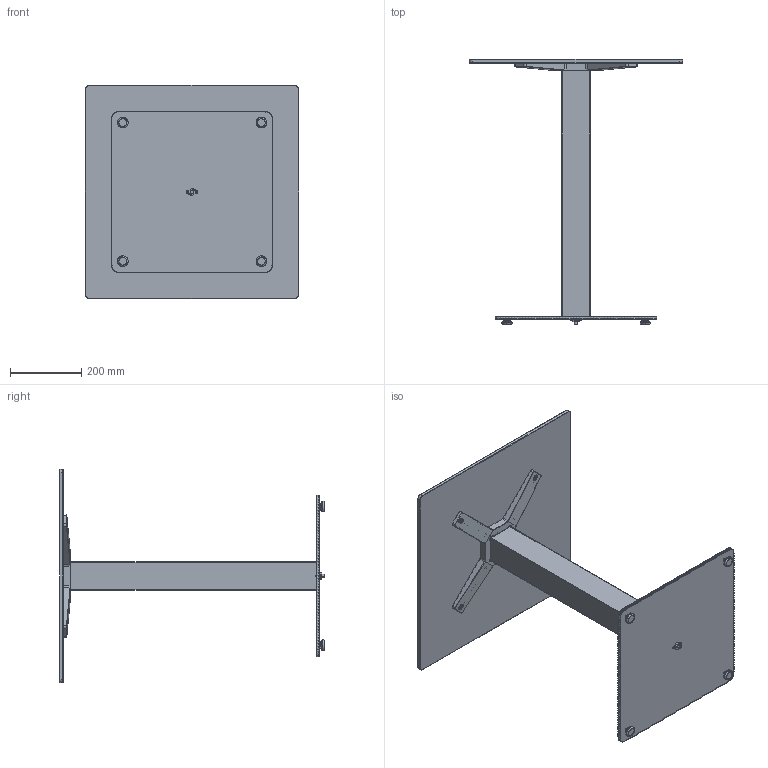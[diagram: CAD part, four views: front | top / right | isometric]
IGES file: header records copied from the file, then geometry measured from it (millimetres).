
Start section: SolidWorks IGES file using NURBS representation for surfaces
Global section: file name: R:\UFFICIO TECNICO\ARCHIVIO DISEGNI\3D\COMPOSIT 1.IGS; native system: SolidWorks 2011; preprocessor: SolidWorks 2011; author: Alberto; date: 120719.095113; units: millimetre
Bounding box: 600 x 745.1 x 600 mm (x, y, z)
Surface area: 2221115.4 mm2 (no closed solid volume)
Topology: 0 solids, 0 shells, 2071 faces, 22693 edges, 22629 vertices
Faces by surface type: bspline 2071
